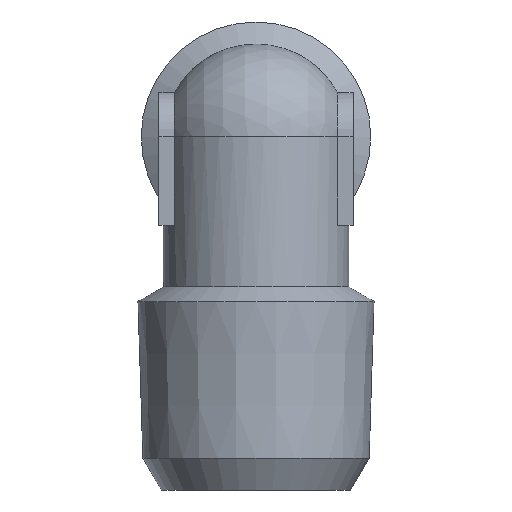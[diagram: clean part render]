
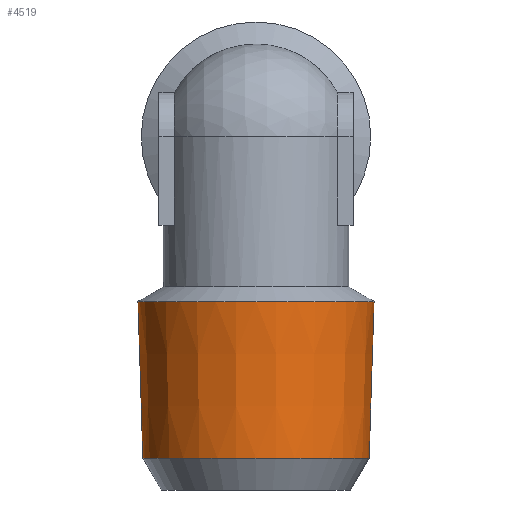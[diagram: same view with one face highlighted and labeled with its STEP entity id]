
A CAD part, left-side view. The second image highlights one B-rep face of the part: STEP entity #4519.
In plain terms, the highlighted conical face has half-angle 1.79 degrees and reference radius 6.694 mm.
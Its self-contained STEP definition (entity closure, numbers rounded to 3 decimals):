
#989=CONICAL_SURFACE('',#4447,6.694,1.79);
#1087=ORIENTED_EDGE('',*,*,#1312,.F.);
#1088=ORIENTED_EDGE('',*,*,#1313,.F.);
#1189=CIRCLE('',#4448,6.684);
#1190=CIRCLE('',#4449,6.407);
#1245=VERTEX_POINT('',#1876);
#1246=VERTEX_POINT('',#1878);
#1312=EDGE_CURVE('',#1245,#1245,#1189,.T.);
#1313=EDGE_CURVE('',#1246,#1246,#1190,.T.);
#1395=EDGE_LOOP('',(#1087));
#1396=EDGE_LOOP('',(#1088));
#1478=FACE_BOUND('',#1395,.T.);
#1479=FACE_BOUND('',#1396,.T.);
#1666=DIRECTION('',(0.,1.,0.));
#1667=DIRECTION('',(0.,0.,1.));
#1668=DIRECTION('',(0.,1.,0.));
#1669=DIRECTION('',(0.,0.,6.684));
#1670=DIRECTION('',(0.,-1.,0.));
#1671=DIRECTION('',(0.,0.,6.407));
#1875=CARTESIAN_POINT('',(0.,11.,0.));
#1876=CARTESIAN_POINT('',(0.,10.672,6.684));
#1877=CARTESIAN_POINT('',(0.,10.672,0.));
#1878=CARTESIAN_POINT('',(0.,1.8,6.407));
#1879=CARTESIAN_POINT('',(0.,1.8,0.));
#4447=AXIS2_PLACEMENT_3D('',#1875,#1666,#1667);
#4448=AXIS2_PLACEMENT_3D('',#1877,#1668,#1669);
#4449=AXIS2_PLACEMENT_3D('',#1879,#1670,#1671);
#4519=ADVANCED_FACE('',(#1478,#1479),#989,.T.);
